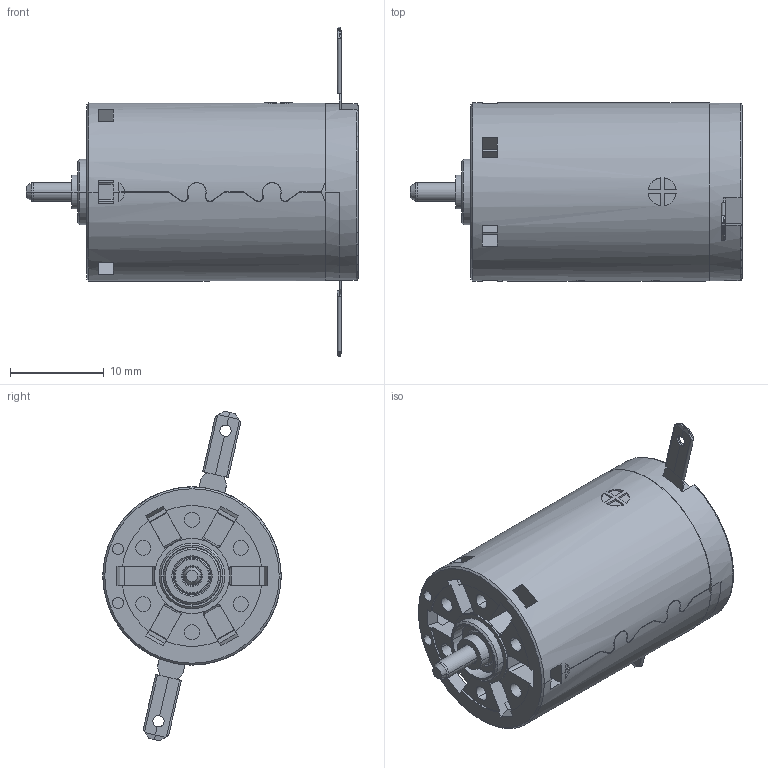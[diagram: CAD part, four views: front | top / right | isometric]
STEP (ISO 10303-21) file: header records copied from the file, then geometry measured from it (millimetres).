
FILE_DESCRIPTION((''),'2;1');
FILE_NAME('110081_AMAX19_EB_2_5W_SL_1WE','2016-10-14T',('mmagvisi'),(''),'CREO PARAMETRIC BY PTC INC, 2016050','CREO PARAMETRIC BY PTC INC, 2016050','');
FILE_SCHEMA(('CONFIG_CONTROL_DESIGN'));
Length unit declared in the file: millimetre
Products named in the file (1): 110081_AMAX19_EB_2_5W_SL_1WE
Bounding box: 35.4 x 19 x 35.15 mm (x, y, z)
Volume: 7969.3 mm3; surface area: 3066.5 mm2
Topology: 1 solids, 1 shells, 382 faces, 985 edges, 618 vertices
Faces by surface type: plane 259, cylinder 93, cone 24, torus 6
Entity records: 16834 total; most frequent: CARTESIAN_POINT 3005, ORIENTED_EDGE 1970, DIRECTION 1895, PRESENTATION_STYLE_ASSIGNMENT 1152, STYLED_ITEM 986, CURVE_STYLE 985, EDGE_CURVE 985, VECTOR 699
